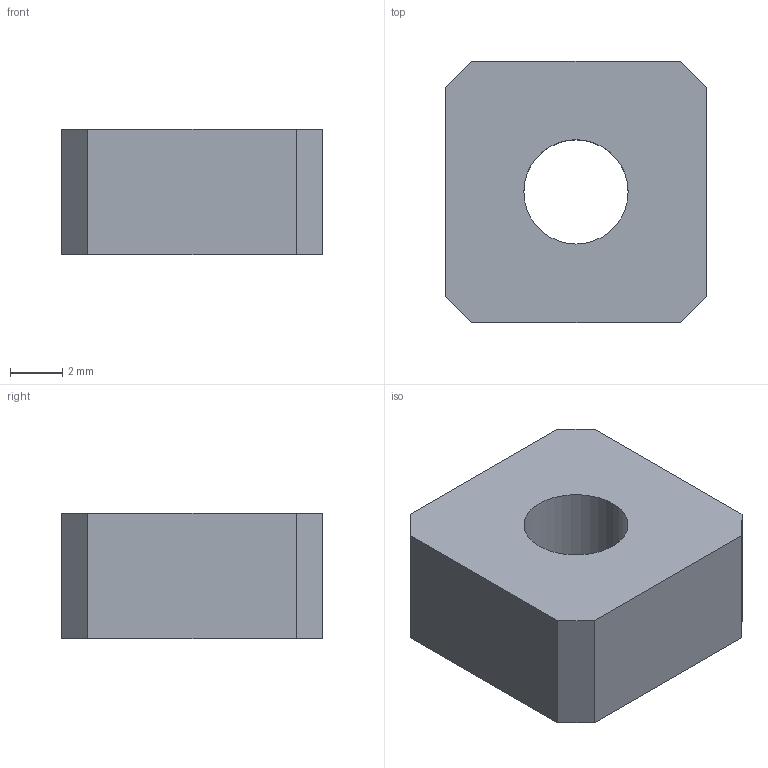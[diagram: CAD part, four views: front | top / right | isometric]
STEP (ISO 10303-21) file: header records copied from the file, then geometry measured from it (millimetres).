
FILE_DESCRIPTION (( 'STEP AP203' ), '1' );
FILE_NAME ('5239.STEP', '2016-04-16T12:28:56', ( '' ), ( '' ), 'SwSTEP 2.0', 'SolidWorks 2014', '' );
FILE_SCHEMA (( 'CONFIG_CONTROL_DESIGN' ));
Length unit declared in the file: millimetre
Products named in the file (1): 5239
Bounding box: 10 x 10 x 4.8 mm (x, y, z)
Volume: 410.1 mm3; surface area: 411.9 mm2
Topology: 1 solids, 1 shells, 12 faces, 30 edges, 20 vertices
Faces by surface type: plane 10, cylinder 2
Entity records: 439 total; most frequent: CARTESIAN_POINT 63, DIRECTION 60, ORIENTED_EDGE 60, EDGE_CURVE 30, LINE 26, VECTOR 26, VERTEX_POINT 20, AXIS2_PLACEMENT_3D 17
